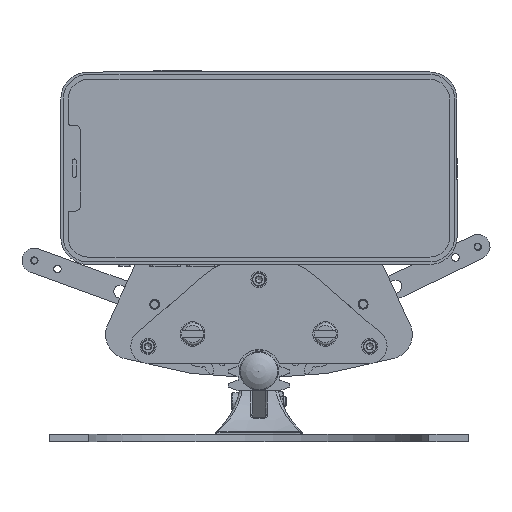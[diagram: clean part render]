
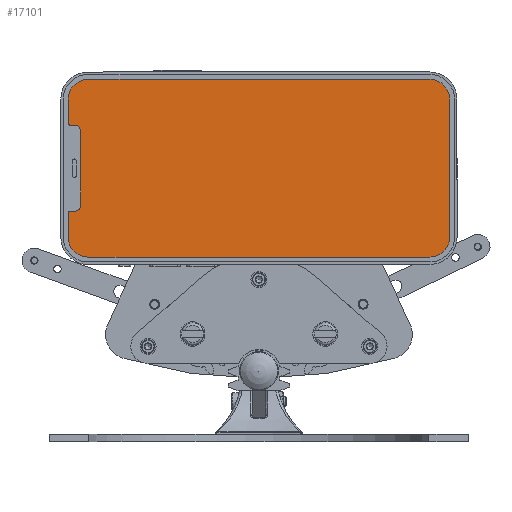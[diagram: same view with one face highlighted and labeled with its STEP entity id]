
A CAD part, front view. The second image highlights one B-rep face of the part: STEP entity #17101.
In plain terms, the highlighted planar face has unit normal (0, -1, 0) as drawn and (0, 0, 1) by its records, which use the part's own axes.
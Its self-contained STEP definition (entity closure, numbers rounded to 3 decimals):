
#1815=FACE_OUTER_BOUND('',#2881,.T.);
#2881=EDGE_LOOP('',(#13326,#13327,#13328,#13329,#13330,#13331,#13332,#13333,
#13334,#13335,#13336,#13337,#13338,#13339,#13340,#13341));
#4219=LINE('',#29988,#5577);
#4222=LINE('',#29996,#5580);
#4225=LINE('',#30004,#5583);
#4228=LINE('',#30011,#5586);
#4229=LINE('',#30014,#5587);
#4230=LINE('',#30018,#5588);
#4231=LINE('',#30022,#5589);
#4232=LINE('',#30025,#5590);
#5577=VECTOR('',#22146,1.75);
#5580=VECTOR('',#22155,9.8);
#5583=VECTOR('',#22164,138.8);
#5586=VECTOR('',#22173,56.1);
#5587=VECTOR('',#22176,30.);
#5588=VECTOR('',#22179,1.75);
#5589=VECTOR('',#22182,9.8);
#5590=VECTOR('',#22185,138.8);
#6609=CIRCLE('',#18880,8.);
#6617=CIRCLE('',#18890,2.5);
#6618=CIRCLE('',#18893,0.75);
#6619=CIRCLE('',#18896,8.);
#6620=CIRCLE('',#18899,8.);
#6621=CIRCLE('',#18902,2.5);
#6622=CIRCLE('',#18903,0.75);
#6623=CIRCLE('',#18904,8.);
#7843=VERTEX_POINT('',#29945);
#7844=VERTEX_POINT('',#29947);
#7859=VERTEX_POINT('',#29981);
#7860=VERTEX_POINT('',#29983);
#7861=VERTEX_POINT('',#29987);
#7862=VERTEX_POINT('',#29991);
#7863=VERTEX_POINT('',#29995);
#7864=VERTEX_POINT('',#29999);
#7865=VERTEX_POINT('',#30003);
#7866=VERTEX_POINT('',#30007);
#7867=VERTEX_POINT('',#30013);
#7868=VERTEX_POINT('',#30015);
#7869=VERTEX_POINT('',#30017);
#7870=VERTEX_POINT('',#30019);
#7871=VERTEX_POINT('',#30021);
#7872=VERTEX_POINT('',#30023);
#9797=EDGE_CURVE('',#7844,#7843,#6609,.T.);
#9815=EDGE_CURVE('',#7860,#7859,#6617,.T.);
#9817=EDGE_CURVE('',#7860,#7861,#4219,.T.);
#9819=EDGE_CURVE('',#7862,#7861,#6618,.T.);
#9821=EDGE_CURVE('',#7862,#7863,#4222,.T.);
#9823=EDGE_CURVE('',#7864,#7863,#6619,.T.);
#9825=EDGE_CURVE('',#7864,#7865,#4225,.T.);
#9827=EDGE_CURVE('',#7866,#7865,#6620,.T.);
#9829=EDGE_CURVE('',#7866,#7843,#4228,.T.);
#9830=EDGE_CURVE('',#7867,#7859,#4229,.T.);
#9831=EDGE_CURVE('',#7867,#7868,#6621,.T.);
#9832=EDGE_CURVE('',#7869,#7868,#4230,.T.);
#9833=EDGE_CURVE('',#7869,#7870,#6622,.T.);
#9834=EDGE_CURVE('',#7871,#7870,#4231,.T.);
#9835=EDGE_CURVE('',#7871,#7872,#6623,.T.);
#9836=EDGE_CURVE('',#7844,#7872,#4232,.T.);
#13326=ORIENTED_EDGE('',*,*,#9815,.T.);
#13327=ORIENTED_EDGE('',*,*,#9830,.F.);
#13328=ORIENTED_EDGE('',*,*,#9831,.T.);
#13329=ORIENTED_EDGE('',*,*,#9832,.F.);
#13330=ORIENTED_EDGE('',*,*,#9833,.T.);
#13331=ORIENTED_EDGE('',*,*,#9834,.F.);
#13332=ORIENTED_EDGE('',*,*,#9835,.T.);
#13333=ORIENTED_EDGE('',*,*,#9836,.F.);
#13334=ORIENTED_EDGE('',*,*,#9797,.T.);
#13335=ORIENTED_EDGE('',*,*,#9829,.F.);
#13336=ORIENTED_EDGE('',*,*,#9827,.T.);
#13337=ORIENTED_EDGE('',*,*,#9825,.F.);
#13338=ORIENTED_EDGE('',*,*,#9823,.T.);
#13339=ORIENTED_EDGE('',*,*,#9821,.F.);
#13340=ORIENTED_EDGE('',*,*,#9819,.T.);
#13341=ORIENTED_EDGE('',*,*,#9817,.F.);
#16454=PLANE('',#18901);
#17101=ADVANCED_FACE('',(#1815),#16454,.T.);
#18880=AXIS2_PLACEMENT_3D('',#29948,#22111,#22112);
#18890=AXIS2_PLACEMENT_3D('',#29984,#22141,#22142);
#18893=AXIS2_PLACEMENT_3D('',#29992,#22150,#22151);
#18896=AXIS2_PLACEMENT_3D('',#30000,#22159,#22160);
#18899=AXIS2_PLACEMENT_3D('',#30008,#22168,#22169);
#18901=AXIS2_PLACEMENT_3D('',#30012,#22174,#22175);
#18902=AXIS2_PLACEMENT_3D('',#30016,#22177,#22178);
#18903=AXIS2_PLACEMENT_3D('',#30020,#22180,#22181);
#18904=AXIS2_PLACEMENT_3D('',#30024,#22183,#22184);
#22111=DIRECTION('center_axis',(0.,0.,1.));
#22112=DIRECTION('ref_axis',(-1.,0.,0.));
#22141=DIRECTION('center_axis',(0.,0.,-1.));
#22142=DIRECTION('ref_axis',(1.,0.,0.));
#22146=DIRECTION('',(0.,1.,0.));
#22150=DIRECTION('center_axis',(0.,0.,1.));
#22151=DIRECTION('ref_axis',(0.,1.,0.));
#22155=DIRECTION('',(1.,0.,0.));
#22159=DIRECTION('center_axis',(0.,0.,1.));
#22160=DIRECTION('ref_axis',(1.,0.,0.));
#22164=DIRECTION('',(0.,-1.,0.));
#22168=DIRECTION('center_axis',(0.,0.,1.));
#22169=DIRECTION('ref_axis',(0.,-1.,0.));
#22173=DIRECTION('',(-1.,0.,0.));
#22174=DIRECTION('center_axis',(0.,0.,1.));
#22175=DIRECTION('ref_axis',(1.,0.,0.));
#22176=DIRECTION('',(1.,0.,0.));
#22177=DIRECTION('center_axis',(0.,0.,-1.));
#22178=DIRECTION('ref_axis',(0.,-1.,0.));
#22179=DIRECTION('',(0.,-1.,0.));
#22180=DIRECTION('center_axis',(0.,0.,1.));
#22181=DIRECTION('ref_axis',(1.,0.,0.));
#22182=DIRECTION('',(1.,0.,0.));
#22183=DIRECTION('center_axis',(0.,0.,1.));
#22184=DIRECTION('ref_axis',(0.,1.,0.));
#22185=DIRECTION('',(0.,1.,0.));
#29945=CARTESIAN_POINT('',(10.,2.,4.2));
#29947=CARTESIAN_POINT('',(2.,10.,4.2));
#29948=CARTESIAN_POINT('Origin',(10.,10.,4.2));
#29981=CARTESIAN_POINT('',(53.05,151.8,4.2));
#29983=CARTESIAN_POINT('',(55.55,154.3,4.2));
#29984=CARTESIAN_POINT('Origin',(53.05,154.3,4.2));
#29987=CARTESIAN_POINT('',(55.55,156.05,4.2));
#29988=CARTESIAN_POINT('',(55.55,154.3,4.2));
#29991=CARTESIAN_POINT('',(56.3,156.8,4.2));
#29992=CARTESIAN_POINT('Origin',(56.3,156.05,4.2));
#29995=CARTESIAN_POINT('',(66.1,156.8,4.2));
#29996=CARTESIAN_POINT('',(56.3,156.8,4.2));
#29999=CARTESIAN_POINT('',(74.1,148.8,4.2));
#30000=CARTESIAN_POINT('Origin',(66.1,148.8,4.2));
#30003=CARTESIAN_POINT('',(74.1,10.,4.2));
#30004=CARTESIAN_POINT('',(74.1,148.8,4.2));
#30007=CARTESIAN_POINT('',(66.1,2.,4.2));
#30008=CARTESIAN_POINT('Origin',(66.1,10.,4.2));
#30011=CARTESIAN_POINT('',(66.1,2.,4.2));
#30012=CARTESIAN_POINT('Origin',(53.05,154.3,4.2));
#30013=CARTESIAN_POINT('',(23.05,151.8,4.2));
#30014=CARTESIAN_POINT('',(23.05,151.8,4.2));
#30015=CARTESIAN_POINT('',(20.55,154.3,4.2));
#30016=CARTESIAN_POINT('Origin',(23.05,154.3,4.2));
#30017=CARTESIAN_POINT('',(20.55,156.05,4.2));
#30018=CARTESIAN_POINT('',(20.55,156.05,4.2));
#30019=CARTESIAN_POINT('',(19.8,156.8,4.2));
#30020=CARTESIAN_POINT('Origin',(19.8,156.05,4.2));
#30021=CARTESIAN_POINT('',(10.,156.8,4.2));
#30022=CARTESIAN_POINT('',(10.,156.8,4.2));
#30023=CARTESIAN_POINT('',(2.,148.8,4.2));
#30024=CARTESIAN_POINT('Origin',(10.,148.8,4.2));
#30025=CARTESIAN_POINT('',(2.,10.,4.2));
